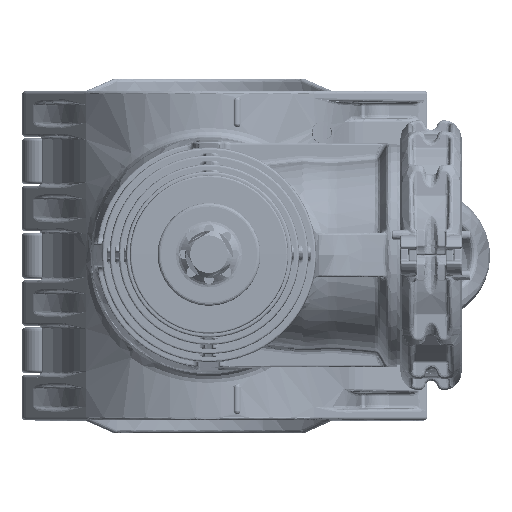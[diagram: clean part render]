
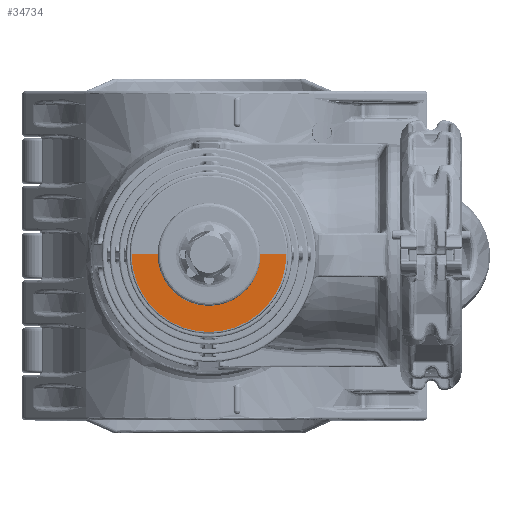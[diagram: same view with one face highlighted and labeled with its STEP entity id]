
A CAD part, top view. The second image highlights one B-rep face of the part: STEP entity #34734.
In plain terms, the highlighted free-form (B-spline) face has degree [1, 1] with [2, 2] control points.
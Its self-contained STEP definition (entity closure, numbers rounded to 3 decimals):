
#34734=ADVANCED_FACE('',(#90703),#90704,.T.);
#75082=VERTEX_POINT('',#131702);
#75084=VERTEX_POINT('',#131704);
#75086=EDGE_CURVE('',#75082,#75084,#131706,.T.);
#75088=VERTEX_POINT('',#131708);
#75090=EDGE_CURVE('',#75082,#75088,#131710,.T.);
#75092=VERTEX_POINT('',#131712);
#75094=EDGE_CURVE('',#75088,#75092,#131714,.T.);
#75096=VERTEX_POINT('',#131716);
#75098=EDGE_CURVE('',#75096,#75092,#131718,.T.);
#75100=EDGE_CURVE('',#75096,#75084,#131720,.T.);
#90703=FACE_OUTER_BOUND('',#216478,.T.);
#90704=B_SPLINE_SURFACE_WITH_KNOTS('',1,1,((#216479,#216480),(#216481,#216482)),.UNSPECIFIED.,.F.,.F.,.F.,(2,2),(2,2),(0.01,0.99),(0.019,0.981),.UNSPECIFIED.);
#131702=CARTESIAN_POINT('',(15.612,0.,237.15));
#131704=CARTESIAN_POINT('',(24.66,0.,237.15));
#131706=LINE('',#340440,#340441);
#131708=CARTESIAN_POINT('',(13.702,-7.48,237.085));
#131710=B_SPLINE_CURVE_WITH_KNOTS('',4,(#340446,#340447,#340448,#340449,#340450),.UNSPECIFIED.,.F.,.F.,(5,5),(0.0,1.0),.UNSPECIFIED.);
#131712=CARTESIAN_POINT('',(-15.612,0.,237.15));
#131714=B_SPLINE_CURVE_WITH_KNOTS('',5,(#340455,#340456,#340457,#340458,#340459,#340460,#340461,#340462,#340463,#340464,#340465,#340466),.UNSPECIFIED.,.F.,.F.,(6,3,3,6),(0.0,0.301,0.788,1.0),.UNSPECIFIED.);
#131716=CARTESIAN_POINT('',(-24.66,0.,237.15));
#131718=LINE('',#340471,#340472);
#131720=CIRCLE('',#340475,24.66);
#216478=EDGE_LOOP('',(#372088,#372089,#372090,#372091,#372092));
#216479=CARTESIAN_POINT('',(-24.665,-24.688,236.935));
#216480=CARTESIAN_POINT('',(-24.665,0.001,237.15));
#216481=CARTESIAN_POINT('',(24.665,-24.688,236.935));
#216482=CARTESIAN_POINT('',(24.665,0.001,237.15));
#340440=CARTESIAN_POINT('',(15.612,0.,237.15));
#340441=VECTOR('',#387532,1.0);
#340446=CARTESIAN_POINT('',(15.612,0.,237.15));
#340447=CARTESIAN_POINT('',(15.612,-1.95,237.133));
#340448=CARTESIAN_POINT('',(15.286,-3.901,237.116));
#340449=CARTESIAN_POINT('',(14.636,-5.768,237.1));
#340450=CARTESIAN_POINT('',(13.702,-7.48,237.085));
#340455=CARTESIAN_POINT('',(13.702,-7.48,237.085));
#340456=CARTESIAN_POINT('',(12.512,-9.658,237.066));
#340457=CARTESIAN_POINT('',(10.89,-11.599,237.049));
#340458=CARTESIAN_POINT('',(8.898,-13.189,237.035));
#340459=CARTESIAN_POINT('',(2.996,-16.204,237.009));
#340460=CARTESIAN_POINT('',(-3.828,-15.964,237.011));
#340461=CARTESIAN_POINT('',(-7.853,-14.417,237.024));
#340462=CARTESIAN_POINT('',(-12.493,-10.518,237.059));
#340463=CARTESIAN_POINT('',(-14.876,-5.202,237.105));
#340464=CARTESIAN_POINT('',(-15.366,-3.499,237.12));
#340465=CARTESIAN_POINT('',(-15.612,-1.749,237.135));
#340466=CARTESIAN_POINT('',(-15.612,0.,237.15));
#340471=CARTESIAN_POINT('',(-24.66,0.,237.15));
#340472=VECTOR('',#387533,1.0);
#340475=AXIS2_PLACEMENT_3D('',#387534,#387535,#387536);
#372088=ORIENTED_EDGE('',*,*,#75086,.F.);
#372089=ORIENTED_EDGE('',*,*,#75090,.T.);
#372090=ORIENTED_EDGE('',*,*,#75094,.T.);
#372091=ORIENTED_EDGE('',*,*,#75098,.F.);
#372092=ORIENTED_EDGE('',*,*,#75100,.T.);
#387532=DIRECTION('',(1.0,0.,0.0));
#387533=DIRECTION('',(1.0,0.,0.0));
#387534=CARTESIAN_POINT('',(0.,-0.028,237.15));
#387535=DIRECTION('',(0.,-0.009,1.));
#387536=DIRECTION('',(-1.,0.001,0.));
